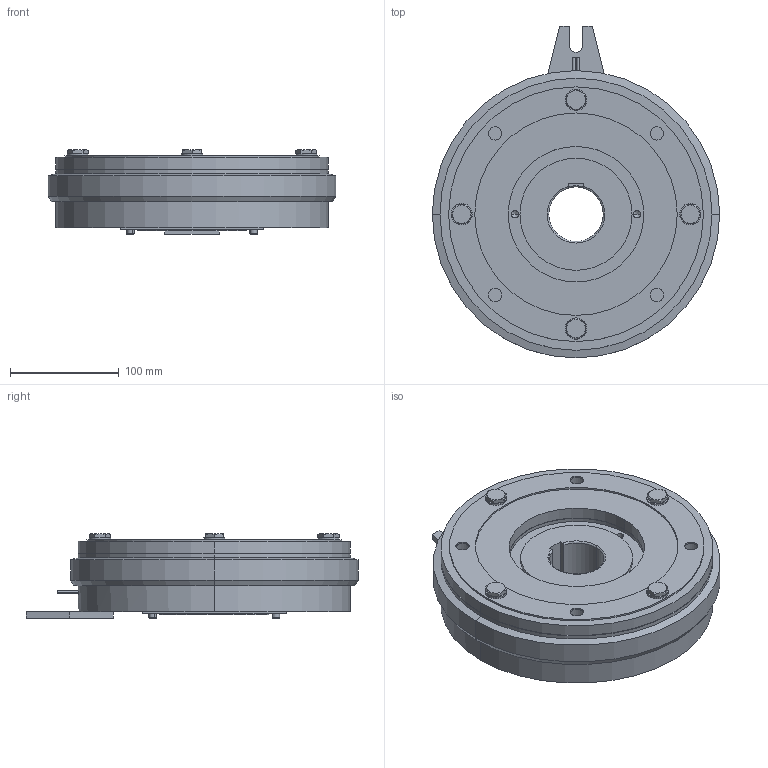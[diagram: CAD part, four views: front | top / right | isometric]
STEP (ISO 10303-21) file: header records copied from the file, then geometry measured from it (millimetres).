
FILE_DESCRIPTION (( 'STEP AP214' ), '1' );
FILE_NAME ('CS-25-33G 50DIN.STEP', '2018-02-26T05:42:41', ( 'MIKI' ), ( '' ), 'SwSTEP 2.0', 'SolidWorks 2012', '' );
FILE_SCHEMA (( 'AUTOMOTIVE_DESIGN' ));
Length unit declared in the file: millimetre
Products named in the file (1): CS-25-33G 50DIN
Bounding box: 264 x 305 x 77.5 mm (x, y, z)
Volume: 3085008.8 mm3; surface area: 224903.1 mm2
Topology: 1 solids, 10 shells, 346 faces, 762 edges, 466 vertices
Faces by surface type: plane 170, cylinder 110, cone 60, torus 6
Entity records: 13550 total; most frequent: CARTESIAN_POINT 1965, DIRECTION 1722, ORIENTED_EDGE 1500, EDGE_CURVE 750, AXIS2_PLACEMENT_3D 679, VERTEX_POINT 466, EDGE_LOOP 400, LINE 364
